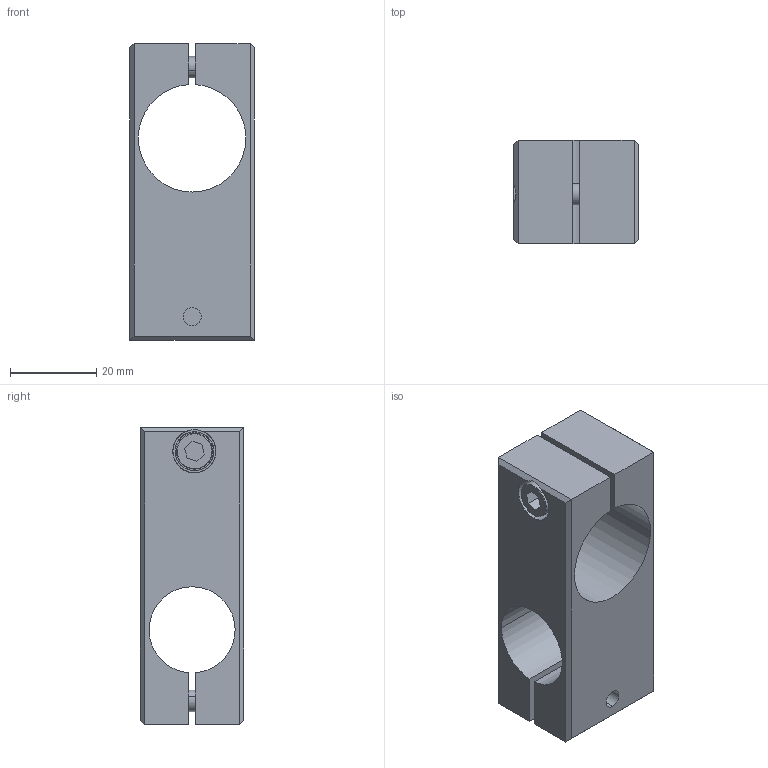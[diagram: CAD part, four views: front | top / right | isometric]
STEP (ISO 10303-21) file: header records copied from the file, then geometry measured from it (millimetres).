
FILE_DESCRIPTION (( 'STEP AP214' ), '1' );
FILE_NAME ('SMBT2520T.STEP', '2023-01-04T07:09:35', ( 'Windows User' ), ( 'P R C' ), 'SwSTEP 2.0', 'SolidWorks 2018', '' );
FILE_SCHEMA (( 'AUTOMOTIVE_DESIGN' ));
Length unit declared in the file: millimetre
Products named in the file (4): PTC-M5L16; SMBT-2520; PTS-M5; SMBT2520T
Assembly tree (5 placements, depth 2):
  SMBT2520T
    SMBT-2520
    PTS-M5  x2
    PTC-M5L16  x2
Bounding box: 29.05 x 24.05 x 69 mm (x, y, z)
Volume: 25625.2 mm3; surface area: 13576.8 mm2
Topology: 5 solids, 5 shells, 415 faces, 1190 edges, 785 vertices
Faces by surface type: plane 362, cylinder 34, cone 19
Entity records: 7781 total; most frequent: DIRECTION 1351, CARTESIAN_POINT 1350, ORIENTED_EDGE 1312, EDGE_CURVE 656, AXIS2_PLACEMENT_3D 464, VERTEX_POINT 431, LINE 423, VECTOR 423
